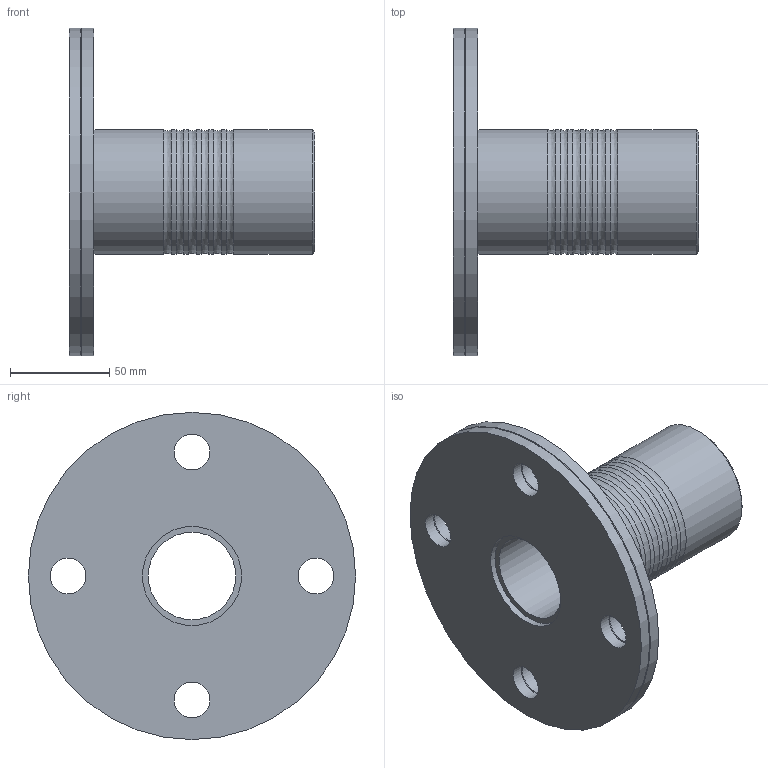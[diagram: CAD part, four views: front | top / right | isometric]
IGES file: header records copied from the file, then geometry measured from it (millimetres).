
Global section: file name: 0723060630200_182306063020_0723060630200A.ipt; native system: Autodesk Inventor 2015; preprocessor: unknown; author: KIM; date: 20170606.172342; units: millimetre
Bounding box: 124 x 165 x 165 mm (x, y, z)
Volume: 391492.5 mm3; surface area: 89924 mm2
Topology: 1 solids, 1 shells, 42 faces, 123 edges, 86 vertices
Faces by surface type: revolution 25, cylinder 9, plane 5, cone 3
Full cylindrical faces by diameter (mm): 63 x7, 165 x2
